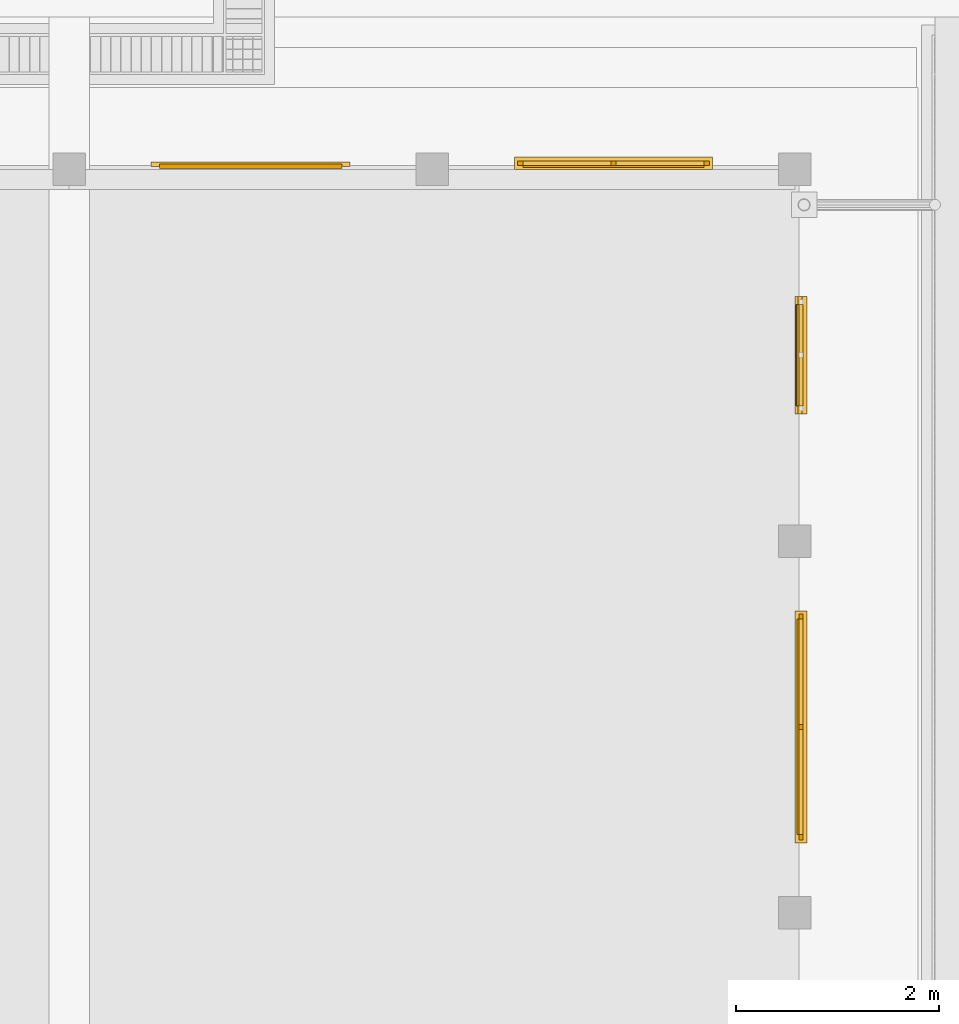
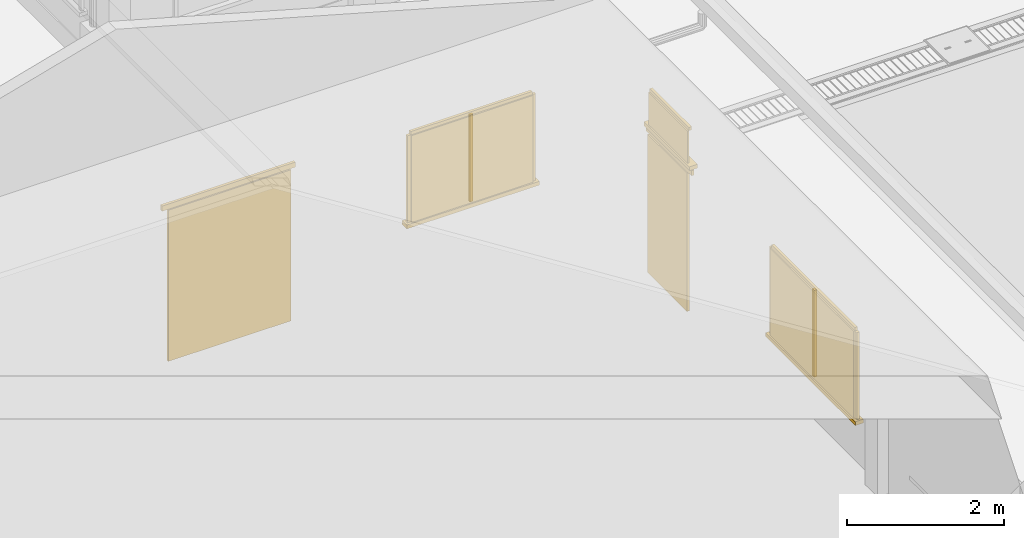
# One storey, part 54 of 151: 15 windows, 4 doors.
"""IFC2X3 building model written with IfcOpenShell, lengths in metres."""

from ifc_helpers import new_model, si_unit, origin, origin_with_axes, place, context, subcontext, project, spatial, faceted_brep, element, save


model = new_model("IFC2X3")

# Units and contexts
model_context = context("Model", 3, precision=1e-05, world=origin_with_axes())
body_context = subcontext(model_context, "Body", "Model", "MODEL_VIEW")
ifc_project = project(units=[si_unit("LENGTHUNIT", "METRE"), si_unit("AREAUNIT", "SQUARE_METRE"), si_unit("VOLUMEUNIT", "CUBIC_METRE"), si_unit("PLANEANGLEUNIT", "RADIAN")], contexts=[model_context])

# Site, building, storey
site_placement = place(None, origin_with_axes())
site = spatial("IfcSite", under=ifc_project, at=site_placement, Name="Predio Los Mangos - Morales, San Martín", CompositionType="ELEMENT")
building_placement = place(site_placement, origin())
building = spatial("IfcBuilding", under=site, at=building_placement, Name="Hogar de Refugio Temporal", CompositionType="ELEMENT")
storey_placement = place(building_placement, origin())
storey = spatial("IfcBuildingStorey", under=building, at=storey_placement, Name="NIVEL 1 (NPT +0.00)", CompositionType="ELEMENT", Elevation=0.0)

# Doors
door_1_placement = place(storey_placement, origin())
element("IfcDoor", 1, at=door_1_placement, inside=storey, Name="E-05_pp", ObjectType="Puerta", context=body_context, shape_type="Brep", body=[
    faceted_brep([(53.3375, 87.21, 0.15), (53.3375, 87.25, 0.15), (55.1375, 87.25, 0.15), (55.1375, 87.21, 0.15), (53.3375, 87.21, 2.5), (55.1375, 87.21, 2.5), (55.1375, 87.25, 2.5), (53.3375, 87.25, 2.5)], [[[0, 1, 2, 3]], [[4, 5, 6, 7]], [[0, 3, 5, 4]], [[3, 2, 6, 5]], [[2, 1, 7, 6]], [[1, 0, 4, 7]]]),
])
door_2_placement = place(storey_placement, origin())
element("IfcDoor", 2, at=door_2_placement, inside=storey, Name="E-05_pp_marco", ObjectType="Puerta", context=body_context, shape_type="Brep", body=[
    faceted_brep([(53.2575, 87.23, 2.5), (53.2575, 87.27, 2.5), (55.2175, 87.27, 2.5), (55.2175, 87.23, 2.5), (53.2575, 87.23, 2.58), (55.2175, 87.23, 2.58), (55.2175, 87.27, 2.58), (53.2575, 87.27, 2.58)], [[[0, 1, 2, 3]], [[4, 5, 6, 7]], [[0, 3, 5, 4]], [[3, 2, 6, 5]], [[2, 1, 7, 6]], [[1, 0, 4, 7]]]),
])

# Windows
window_1_placement = place(storey_placement, origin())
element("IfcWindow", 3, at=window_1_placement, inside=storey, Name="E-05_vg3_vid", ObjectType="Ventana", context=body_context, shape_type="Brep", body=[
    faceted_brep([(56.9188, 87.22, 1.05), (56.9188, 87.24, 1.05), (58.7062, 87.24, 1.05), (58.7062, 87.22, 1.05), (56.9188, 87.22, 2.4), (58.7062, 87.22, 2.4), (58.7062, 87.24, 2.4), (56.9188, 87.24, 2.4)], [[[0, 1, 2, 3]], [[4, 5, 6, 7]], [[0, 3, 5, 4]], [[3, 2, 6, 5]], [[2, 1, 7, 6]], [[1, 0, 4, 7]]]),
])
window_2_placement = place(storey_placement, origin())
element("IfcWindow", 4, at=window_2_placement, inside=storey, Name="E-05_vg3_m", ObjectType="Ventana", context=body_context, shape_type="Brep", body=[
    faceted_brep([(56.8688, 87.24, 1.05), (56.8688, 87.28, 1.05), (56.9188, 87.28, 1.05), (56.9188, 87.24, 1.05), (56.8688, 87.24, 2.4), (56.9188, 87.24, 2.4), (56.9188, 87.28, 2.4), (56.8688, 87.28, 2.4)], [[[0, 1, 2, 3]], [[4, 5, 6, 7]], [[0, 3, 5, 4]], [[3, 2, 6, 5]], [[2, 1, 7, 6]], [[1, 0, 4, 7]]]),
])
window_3_placement = place(storey_placement, origin())
element("IfcWindow", 5, at=window_3_placement, inside=storey, Name="E-05_vg3_m", ObjectType="Ventana", context=body_context, shape_type="Brep", body=[
    faceted_brep([(58.7062, 87.24, 1.05), (58.7062, 87.28, 1.05), (58.7562, 87.28, 1.05), (58.7562, 87.24, 1.05), (58.7062, 87.24, 2.4), (58.7562, 87.24, 2.4), (58.7562, 87.28, 2.4), (58.7062, 87.28, 2.4)], [[[0, 1, 2, 3]], [[4, 5, 6, 7]], [[0, 3, 5, 4]], [[3, 2, 6, 5]], [[2, 1, 7, 6]], [[1, 0, 4, 7]]]),
])
window_4_placement = place(storey_placement, origin())
element("IfcWindow", 6, at=window_4_placement, inside=storey, Name="E-05_vg3_m", ObjectType="Ventana", context=body_context, shape_type="Brep", body=[
    faceted_brep([(56.9188, 87.24, 2.4), (56.9188, 87.28, 2.4), (58.7062, 87.28, 2.4), (58.7062, 87.24, 2.4), (56.9188, 87.24, 2.45), (58.7062, 87.24, 2.45), (58.7062, 87.28, 2.45), (56.9188, 87.28, 2.45)], [[[0, 1, 2, 3]], [[4, 5, 6, 7]], [[0, 3, 5, 4]], [[3, 2, 6, 5]], [[2, 1, 7, 6]], [[1, 0, 4, 7]]]),
])
window_5_placement = place(storey_placement, origin())
element("IfcWindow", 7, at=window_5_placement, inside=storey, Name="E-05_vg3_m", ObjectType="Ventana", context=body_context, shape_type="Brep", body=[
    faceted_brep([(57.7875, 87.24, 1.05), (57.7875, 87.28, 1.05), (57.8375, 87.28, 1.05), (57.8375, 87.24, 1.05), (57.7875, 87.24, 2.4), (57.8375, 87.24, 2.4), (57.8375, 87.28, 2.4), (57.7875, 87.28, 2.4)], [[[0, 1, 2, 3]], [[4, 5, 6, 7]], [[0, 3, 5, 4]], [[3, 2, 6, 5]], [[2, 1, 7, 6]], [[1, 0, 4, 7]]]),
])
window_6_placement = place(storey_placement, origin())
element("IfcWindow", 8, at=window_6_placement, inside=storey, Name="E-05_vg3_alf", ObjectType="Ventana", context=body_context, shape_type="Brep", body=[
    faceted_brep([(56.8387, 87.2, 0.99), (56.8387, 87.32, 0.99), (58.7863, 87.32, 0.99), (58.7863, 87.2, 0.99), (56.8387, 87.2, 1.05), (58.7863, 87.2, 1.05), (58.7863, 87.32, 1.05), (56.8387, 87.32, 1.05)], [[[0, 1, 2, 3]], [[4, 5, 6, 7]], [[0, 3, 5, 4]], [[3, 2, 6, 5]], [[2, 1, 7, 6]], [[1, 0, 4, 7]]]),
])
window_7_placement = place(storey_placement, origin())
element("IfcWindow", 9, at=window_7_placement, inside=storey, Name="E-05_v6_vid", ObjectType="Ventana", context=body_context, shape_type="Brep", body=[
    faceted_brep([(59.62, 80.6441, 1.05), (59.62, 82.7684, 1.05), (59.64, 82.7684, 1.05), (59.64, 80.6441, 1.05), (59.62, 80.6441, 2.4), (59.64, 80.6441, 2.4), (59.64, 82.7684, 2.4), (59.62, 82.7684, 2.4)], [[[0, 1, 2, 3]], [[4, 5, 6, 7]], [[0, 3, 5, 4]], [[3, 2, 6, 5]], [[2, 1, 7, 6]], [[1, 0, 4, 7]]]),
])
window_8_placement = place(storey_placement, origin())
element("IfcWindow", 10, at=window_8_placement, inside=storey, Name="E-05_v6_m", ObjectType="Ventana", context=body_context, shape_type="Brep", body=[
    faceted_brep([(59.64, 80.5941, 1.05), (59.64, 80.6441, 1.05), (59.68, 80.6441, 1.05), (59.68, 80.5941, 1.05), (59.64, 80.5941, 2.4), (59.68, 80.5941, 2.4), (59.68, 80.6441, 2.4), (59.64, 80.6441, 2.4)], [[[0, 1, 2, 3]], [[4, 5, 6, 7]], [[0, 3, 5, 4]], [[3, 2, 6, 5]], [[2, 1, 7, 6]], [[1, 0, 4, 7]]]),
])
window_9_placement = place(storey_placement, origin())
element("IfcWindow", 11, at=window_9_placement, inside=storey, Name="E-05_v6_m", ObjectType="Ventana", context=body_context, shape_type="Brep", body=[
    faceted_brep([(59.64, 82.7684, 1.05), (59.64, 82.8184, 1.05), (59.68, 82.8184, 1.05), (59.68, 82.7684, 1.05), (59.64, 82.7684, 2.4), (59.68, 82.7684, 2.4), (59.68, 82.8184, 2.4), (59.64, 82.8184, 2.4)], [[[0, 1, 2, 3]], [[4, 5, 6, 7]], [[0, 3, 5, 4]], [[3, 2, 6, 5]], [[2, 1, 7, 6]], [[1, 0, 4, 7]]]),
])
window_10_placement = place(storey_placement, origin())
element("IfcWindow", 12, at=window_10_placement, inside=storey, Name="E-05_v6_m", ObjectType="Ventana", context=body_context, shape_type="Brep", body=[
    faceted_brep([(59.64, 80.6441, 2.4), (59.64, 82.7684, 2.4), (59.68, 82.7684, 2.4), (59.68, 80.6441, 2.4), (59.64, 80.6441, 2.45), (59.68, 80.6441, 2.45), (59.68, 82.7684, 2.45), (59.64, 82.7684, 2.45)], [[[0, 1, 2, 3]], [[4, 5, 6, 7]], [[0, 3, 5, 4]], [[3, 2, 6, 5]], [[2, 1, 7, 6]], [[1, 0, 4, 7]]]),
])
window_11_placement = place(storey_placement, origin())
element("IfcWindow", 13, at=window_11_placement, inside=storey, Name="E-05_v6_m", ObjectType="Ventana", context=body_context, shape_type="Brep", body=[
    faceted_brep([(59.64, 81.6813, 1.05), (59.64, 81.7312, 1.05), (59.68, 81.7312, 1.05), (59.68, 81.6813, 1.05), (59.64, 81.6813, 2.4), (59.68, 81.6813, 2.4), (59.68, 81.7312, 2.4), (59.64, 81.7312, 2.4)], [[[0, 1, 2, 3]], [[4, 5, 6, 7]], [[0, 3, 5, 4]], [[3, 2, 6, 5]], [[2, 1, 7, 6]], [[1, 0, 4, 7]]]),
])
window_12_placement = place(storey_placement, origin())
element("IfcWindow", 14, at=window_12_placement, inside=storey, Name="E-05_v6_alf", ObjectType="Ventana", context=body_context, shape_type="Brep", body=[
    faceted_brep([(59.6, 80.5641, 0.99), (59.6, 82.8484, 0.99), (59.72, 82.8484, 0.99), (59.72, 80.5641, 0.99), (59.6, 80.5641, 1.05), (59.72, 80.5641, 1.05), (59.72, 82.8484, 1.05), (59.6, 82.8484, 1.05)], [[[0, 1, 2, 3]], [[4, 5, 6, 7]], [[0, 3, 5, 4]], [[3, 2, 6, 5]], [[2, 1, 7, 6]], [[1, 0, 4, 7]]]),
])

# Doors
door_3_placement = place(storey_placement, origin())
element("IfcDoor", 15, at=door_3_placement, inside=storey, Name="E-05_p7", ObjectType="Puerta", context=body_context, shape_type="Brep", body=[
    faceted_brep([(59.61, 84.8688, 0.15), (59.61, 85.8688, 0.15), (59.65, 85.8688, 0.15), (59.65, 84.8688, 0.15), (59.61, 84.8688, 2.3), (59.65, 84.8688, 2.3), (59.65, 85.8688, 2.3), (59.61, 85.8688, 2.3)], [[[0, 1, 2, 3]], [[4, 5, 6, 7]], [[0, 3, 5, 4]], [[3, 2, 6, 5]], [[2, 1, 7, 6]], [[1, 0, 4, 7]]]),
])
door_4_placement = place(storey_placement, origin())
element("IfcDoor", 16, at=door_4_placement, inside=storey, Name="E-05_p7_marco", ObjectType="Puerta", context=body_context, shape_type="Brep", body=[
    faceted_brep([(59.63, 84.7887, 2.3), (59.63, 85.9488, 2.3), (59.67, 85.9488, 2.3), (59.67, 84.7887, 2.3), (59.63, 84.7887, 2.38), (59.67, 84.7887, 2.38), (59.67, 85.9488, 2.38), (59.63, 85.9488, 2.38)], [[[0, 1, 2, 3]], [[4, 5, 6, 7]], [[0, 3, 5, 4]], [[3, 2, 6, 5]], [[2, 1, 7, 6]], [[1, 0, 4, 7]]]),
])

# Windows
window_13_placement = place(storey_placement, origin())
element("IfcWindow", 17, at=window_13_placement, inside=storey, Name="E-05_vt7_vid", ObjectType="Ventana", context=body_context, shape_type="Brep", body=[
    faceted_brep([(59.62, 84.8688, 2.45), (59.62, 85.8688, 2.45), (59.64, 85.8688, 2.45), (59.64, 84.8688, 2.45), (59.62, 84.8688, 2.95), (59.64, 84.8688, 2.95), (59.64, 85.8688, 2.95), (59.62, 85.8688, 2.95)], [[[0, 1, 2, 3]], [[4, 5, 6, 7]], [[0, 3, 5, 4]], [[3, 2, 6, 5]], [[2, 1, 7, 6]], [[1, 0, 4, 7]]]),
])
window_14_placement = place(storey_placement, origin())
element("IfcWindow", 18, at=window_14_placement, inside=storey, Name="E-05_vt7_m", ObjectType="Ventana", context=body_context, shape_type="Brep", body=[
    faceted_brep([(59.64, 84.8688, 2.95), (59.64, 85.8688, 2.95), (59.68, 85.8688, 2.95), (59.68, 84.8688, 2.95), (59.64, 84.8688, 3.0), (59.68, 84.8688, 3.0), (59.68, 85.8688, 3.0), (59.64, 85.8688, 3.0)], [[[0, 1, 2, 3]], [[4, 5, 6, 7]], [[0, 3, 5, 4]], [[3, 2, 6, 5]], [[2, 1, 7, 6]], [[1, 0, 4, 7]]]),
])
window_15_placement = place(storey_placement, origin())
element("IfcWindow", 19, at=window_15_placement, inside=storey, Name="E-05_vt7_alf", ObjectType="Ventana", context=body_context, shape_type="Brep", body=[
    faceted_brep([(59.6, 84.7887, 2.39), (59.6, 85.9488, 2.39), (59.72, 85.9488, 2.39), (59.72, 84.7887, 2.39), (59.6, 84.7887, 2.45), (59.72, 84.7887, 2.45), (59.72, 85.9488, 2.45), (59.6, 85.9488, 2.45)], [[[0, 1, 2, 3]], [[4, 5, 6, 7]], [[0, 3, 5, 4]], [[3, 2, 6, 5]], [[2, 1, 7, 6]], [[1, 0, 4, 7]]]),
])

save(model, "model.ifc")
